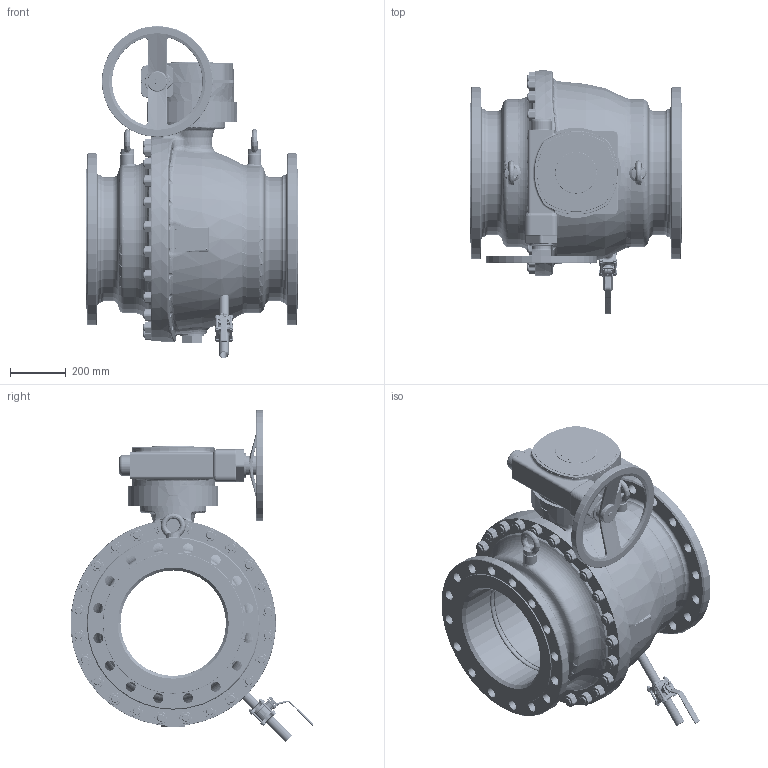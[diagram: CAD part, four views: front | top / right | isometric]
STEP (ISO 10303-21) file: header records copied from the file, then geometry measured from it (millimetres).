
FILE_DESCRIPTION((''),'2;1');
FILE_NAME('KHIFL400VFL400P025MKK_SW0001','2014-09-03T',('schwaba'),('RAND'),'PRO/ENGINEER BY PARAMETRIC TECHNOLOGY CORPORATION, 2013410','PRO/ENGINEER BY PARAMETRIC TECHNOLOGY CORPORATION, 2013410','');
FILE_SCHEMA(('CONFIG_CONTROL_DESIGN'));
Products named in the file (1): KHIFL400VFL400P025MKK_SW0001
Bounding box: 762 x 875.32 x 1195.96 mm (x, y, z)
Volume: 105749849.5 mm3; surface area: 7901969.7 mm2
Topology: 2 solids, 17 shells, 5503 faces, 14133 edges, 8832 vertices
Faces by surface type: plane 2386, cylinder 1229, cone 732, bspline 546, torus 544, sphere 66
Entity records: 304421 total; most frequent: CARTESIAN_POINT 175814, ORIENTED_EDGE 28138, DIRECTION 25299, EDGE_CURVE 14069, AXIS2_PLACEMENT_3D 9545, VERTEX_POINT 8832, VECTOR 6209, LINE 6209
